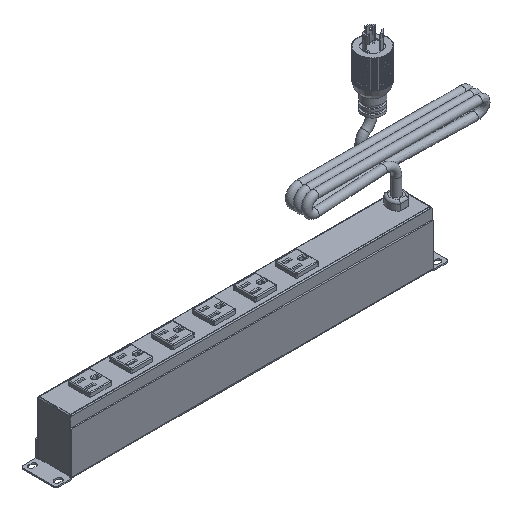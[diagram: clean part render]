
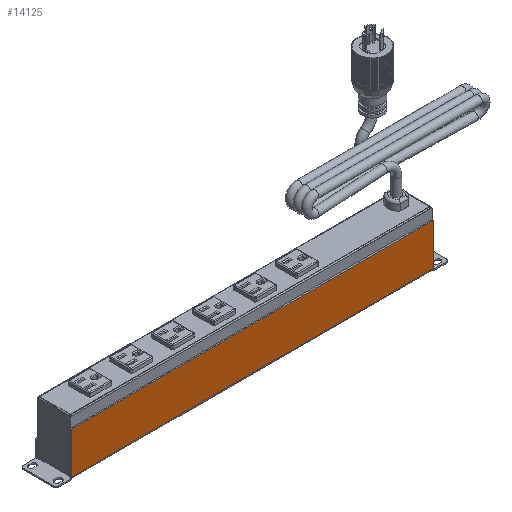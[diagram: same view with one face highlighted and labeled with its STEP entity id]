
A CAD part, isometric view. The second image highlights one B-rep face of the part: STEP entity #14125.
In plain terms, the highlighted planar face has unit normal (0, -1, 0).
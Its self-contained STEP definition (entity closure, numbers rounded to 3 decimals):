
#736=PLANE('',#15150);
#1271=FACE_OUTER_BOUND('',#2099,.T.);
#2099=EDGE_LOOP('',(#9939,#9940,#9941,#9942));
#3064=LINE('',#20528,#4461);
#3068=LINE('',#20538,#4465);
#3075=LINE('',#20554,#4472);
#3077=LINE('',#20557,#4474);
#4461=VECTOR('',#16598,10.);
#4465=VECTOR('',#16608,1.699);
#4472=VECTOR('',#16627,10.);
#4474=VECTOR('',#16631,10.);
#6285=VERTEX_POINT('',#20526);
#6286=VERTEX_POINT('',#20527);
#6289=VERTEX_POINT('',#20536);
#6292=VERTEX_POINT('',#20553);
#7679=EDGE_CURVE('',#6285,#6286,#3064,.T.);
#7685=EDGE_CURVE('',#6289,#6286,#3068,.T.);
#7694=EDGE_CURVE('',#6285,#6292,#3075,.T.);
#7696=EDGE_CURVE('',#6292,#6289,#3077,.T.);
#9939=ORIENTED_EDGE('',*,*,#7679,.T.);
#9940=ORIENTED_EDGE('',*,*,#7685,.F.);
#9941=ORIENTED_EDGE('',*,*,#7696,.F.);
#9942=ORIENTED_EDGE('',*,*,#7694,.F.);
#14125=ADVANCED_FACE('',(#1271),#736,.F.);
#15150=AXIS2_PLACEMENT_3D('',#20558,#16632,#16633);
#16598=DIRECTION('',(1.,0.,0.));
#16608=DIRECTION('',(0.,0.,-1.));
#16627=DIRECTION('',(0.,0.,1.));
#16631=DIRECTION('',(1.,0.,0.));
#16632=DIRECTION('center_axis',(0.,1.,0.));
#16633=DIRECTION('ref_axis',(1.,0.,0.));
#20526=CARTESIAN_POINT('',(-222.25,-21.819,2.588));
#20527=CARTESIAN_POINT('',(222.25,-21.819,2.588));
#20528=CARTESIAN_POINT('',(0.,-21.819,2.588));
#20536=CARTESIAN_POINT('',(222.25,-21.819,53.975));
#20538=CARTESIAN_POINT('',(222.25,-21.819,-2.748));
#20553=CARTESIAN_POINT('',(-222.25,-21.819,53.975));
#20554=CARTESIAN_POINT('',(-222.25,-21.819,2.588));
#20557=CARTESIAN_POINT('',(-222.25,-21.819,53.975));
#20558=CARTESIAN_POINT('Origin',(0.,-21.819,26.947));
